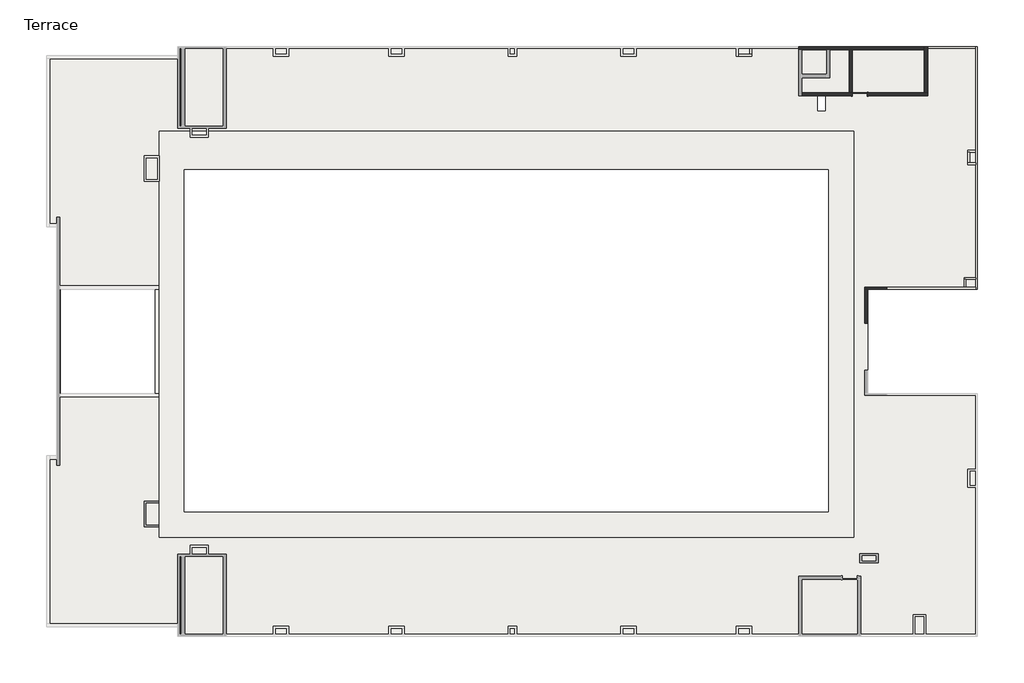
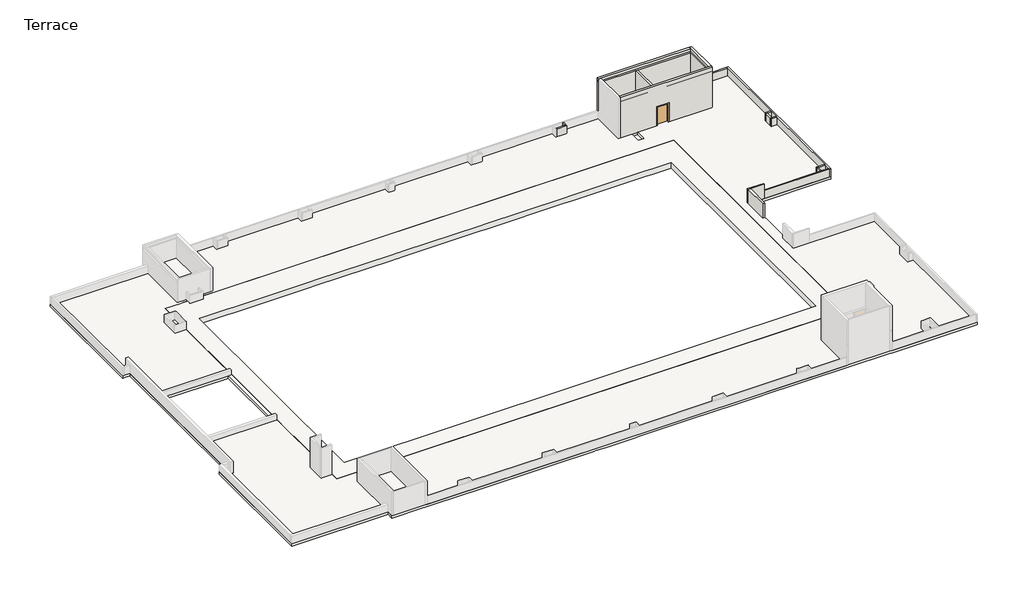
# One storey, part 3 of 3: 16 walls, 2 slabs, 1 door.
"""IFC4 building model written with IfcOpenShell, lengths in millimetres."""

from ifc_helpers import new_model, si_unit, frame, origin, place, context, project, spatial, polyline, outline, extrude, faceted_brep, transform, mapped, element, save
from components import m_single_flush_d_1200x2150_9af03719

model = new_model("IFC4")

# Units and contexts
model_context = context("Model", 3, world=origin())
ifc_project = project(units=[si_unit("LENGTHUNIT", "METRE", prefix="MILLI")], contexts=[model_context])

# Site, building, storey
site = spatial("IfcSite", under=ifc_project)
building = spatial("IfcBuilding", under=site)
storey = spatial("IfcBuildingStorey", under=building, Name="Terrace", Elevation=15000.0)

# Door
placement = place(None, origin())
m_single_flush_d_1200x2150_shape = m_single_flush_d_1200x2150_9af03719(model_context)
element("IfcDoor", 1, ObjectType="M_Single-Flush : D-1200x2150", at=placement, inside=storey, context=model_context, shape_type="MappedRepresentation", body=[
    mapped(m_single_flush_d_1200x2150_shape, transform((33422.4134101, 17450.8851347, 15000.0), x_axis=(-1.0, 0.0, 0.0), y_axis=(0.0, -1.0, 0.0), z_axis=(0.0, 0.0, 1.0))),
])

# Slabs
element("IfcSlab", 2, ObjectType="Composite 225mm", at=placement, inside=storey, context=model_context, shape_type="Brep", body=[
    faceted_brep([(-21051.0865899, 21235.3851347, 14725.0), (-20909.0865899, 21235.3851347, 14725.0), (-19737.5865899, 21235.3851347, 14725.0), (-18837.5865899, 21235.3851347, 14725.0), (-17322.5865899, 21235.3851347, 14725.0), (-16722.5865899, 21235.3851347, 14725.0), (-16462.5865899, 21235.3851347, 14725.0), (-13797.5865899, 21235.3851347, 14725.0), (-11477.5865899, 21235.3851347, 14725.0), (-8507.5865899, 21235.3851347, 14725.0), (-7907.5865899, 21235.3851347, 14725.0), (-4937.5865899, 21235.3851347, 14725.0), (-2617.5865899, 21235.3851347, 14725.0), (47.4134101, 21235.3851347, 14725.0), (422.4134101, 21235.3851347, 14725.0), (964.9134101, 21235.3851347, 14725.0), (1022.4134101, 21235.3851347, 14725.0), (1097.4134101, 21235.3851347, 14725.0), (1154.9134101, 21235.3851347, 14725.0), (1697.4134101, 21235.3851347, 14725.0), (2367.4134101, 21235.3851347, 14725.0), (5334.9134101, 21235.3851347, 14725.0), (5476.9134101, 21235.3851347, 14725.0), (5872.9134101, 21235.3851347, 14725.0), (6014.9134101, 21235.3851347, 14725.0), (10027.4134101, 21235.3851347, 14725.0), (10627.4134101, 21235.3851347, 14725.0), (13967.4134101, 21235.3851347, 14725.0), (16287.4134101, 21235.3851347, 14725.0), (19257.4134101, 21235.3851347, 14725.0), (19857.4134101, 21235.3851347, 14725.0), (22827.4134101, 21235.3851347, 14725.0), (25147.4134101, 21235.3851347, 14725.0), (27812.4134101, 21235.3851347, 14725.0), (28187.4134101, 21235.3851347, 14725.0), (28670.9134101, 21235.3851347, 14725.0), (28787.4134101, 21235.3851347, 14725.0), (33532.4134101, 21235.3851347, 14725.0), (33982.4134101, 21235.3851347, 14725.0), (38782.4134101, 21235.3851347, 14725.0), (39232.4134101, 21235.3851347, 14725.0), (42362.4134101, 21235.3851347, 14725.0), (42717.4134101, 21235.3851347, 14725.0), (42824.4134101, 21235.3851347, 14725.0), (42824.4134101, 20647.3851347, 14725.0), (42824.4134101, 11997.3851347, 14725.0), (42824.4134101, 11397.3851347, 14725.0), (42824.4134101, 2497.3851347, 14725.0), (42824.4134101, 1897.3851347, 14725.0), (42824.4134101, 1885.3851347, 14725.0), (42717.4134101, 1885.3851347, 14725.0), (34077.4134101, 1885.3851347, 14725.0), (34077.4134101, -842.6572845, 14725.0), (34077.4134101, -1099.6572845, 14725.0), (34077.4134101, -3475.6572845, 14725.0), (34077.4134101, -3732.6572845, 14725.0), (34077.4134101, -6457.6148653, 14725.0), (42717.4134101, -6457.6148653, 14725.0), (42824.4134101, -6457.6148653, 14725.0), (42824.4134101, -6472.6148653, 14725.0), (42824.4134101, -7072.6148653, 14725.0), (42824.4134101, -12922.6148653, 14725.0), (42824.4134101, -13522.6148653, 14725.0), (42824.4134101, -19272.6148653, 14725.0), (42824.4134101, -20072.6148653, 14725.0), (42824.4134101, -25222.6148653, 14725.0), (42824.4134101, -25822.6148653, 14725.0), (42824.4134101, -25834.6148653, 14725.0), (42717.4134101, -25834.6148653, 14725.0), (33504.4134101, -25834.6148653, 14725.0), (33247.4134101, -25834.6148653, 14725.0), (28799.4134101, -25834.6148653, 14725.0), (27812.4134101, -25834.6148653, 14725.0), (25147.4134101, -25834.6148653, 14725.0), (22827.4134101, -25834.6148653, 14725.0), (19857.4134101, -25834.6148653, 14725.0), (19257.4134101, -25834.6148653, 14725.0), (16287.4134101, -25834.6148653, 14725.0), (13967.4134101, -25834.6148653, 14725.0), (11302.4134101, -25834.6148653, 14725.0), (8982.4134101, -25834.6148653, 14725.0), (6014.9134101, -25834.6148653, 14725.0), (5334.9134101, -25834.6148653, 14725.0), (2367.4134101, -25834.6148653, 14725.0), (1082.4134101, -25834.6148653, 14725.0), (1034.4134101, -25834.6148653, 14725.0), (47.4134101, -25834.6148653, 14725.0), (-2617.5865899, -25834.6148653, 14725.0), (-4937.5865899, -25834.6148653, 14725.0), (-11477.5865899, -25834.6148653, 14725.0), (-13797.5865899, -25834.6148653, 14725.0), (-16462.5865899, -25834.6148653, 14725.0), (-18837.5865899, -25834.6148653, 14725.0), (-19737.5865899, -25834.6148653, 14725.0), (-20909.0865899, -25834.6148653, 14725.0), (-21051.0865899, -25834.6148653, 14725.0), (-21051.0865899, -25109.6148653, 14725.0), (-31549.5865899, -25109.6148653, 14725.0), (-31549.5865899, -24852.6148653, 14725.0), (-31549.5865899, -11437.6148653, 14725.0), (-31292.5865899, -11437.6148653, 14725.0), (-30749.5865899, -11437.6148653, 14725.0), (-30749.5865899, 6862.3851348, 14725.0), (-31292.5865899, 6862.3851348, 14725.0), (-31549.5865899, 6862.3851348, 14725.0), (-31549.5865899, 20277.3851347, 14725.0), (-31549.5865899, 20534.3851347, 14725.0), (-21051.0865899, 20534.3851347, 14725.0), (32950.4134101, 14475.3851347, 14725.0), (-17192.5865899, 14475.3851347, 14725.0), (-17449.5865899, 14475.3851347, 14725.0), (-18622.5865899, 14475.3851347, 14725.0), (-18764.5865899, 14475.3851347, 14725.0), (-19937.5865899, 14475.3851347, 14725.0), (-20079.5865899, 14475.3851347, 14725.0), (-20525.5865899, 14475.3851347, 14725.0), (-20782.5865899, 14475.3851347, 14725.0), (-22525.5865899, 14475.3851347, 14725.0), (-22525.5865899, 13797.3851347, 14725.0), (-22525.5865899, 13527.3851347, 14725.0), (-22525.5865899, 13447.3851347, 14725.0), (-22525.5865899, 13385.3851347, 14725.0), (-22525.5865899, 2142.3851348, 14725.0), (-22525.5865899, 1885.3851348, 14725.0), (-22525.5865899, -6460.6148653, 14725.0), (-22525.5865899, -6717.6148653, 14725.0), (-22525.5865899, -17960.6148653, 14725.0), (-20782.5865899, -17960.6148653, 14725.0), (-20525.5865899, -17960.6148653, 14725.0), (-17449.5865899, -17960.6148653, 14725.0), (30582.4134101, -17960.6148653, 14725.0), (30724.4134101, -17960.6148653, 14725.0), (32950.4134101, -17960.6148653, 14725.0), (32950.4134101, -13522.6148653, 14725.0), (32950.4134101, -12922.6148653, 14725.0), (32950.4134101, -7072.6148653, 14725.0), (32950.4134101, -6472.6148653, 14725.0), (32950.4134101, 1885.3851347, 14725.0), (32950.4134101, 1897.3851347, 14725.0), (32950.4134101, 2497.3851347, 14725.0), (32950.4134101, 11397.3851347, 14725.0), (32950.4134101, 11997.3851347, 14725.0), (32950.4134101, 13447.3851347, 14725.0), (32950.4134101, 13797.3851347, 14725.0), (-30399.5865899, -6460.6148653, 14725.0), (-22899.5865899, -6460.6148653, 14725.0), (-22899.5865899, 1885.3851348, 14725.0), (-30399.5865899, 1885.3851348, 14725.0), (30672.4134101, 17337.3851347, 14725.0), (30072.4134101, 17337.3851347, 14725.0), (30072.4134101, 17322.3851347, 14725.0), (30072.4134101, 16502.3851347, 14725.0), (30072.4134101, 16360.3851347, 14725.0), (30072.4134101, 16137.3851347, 14725.0), (30672.4134101, 16137.3851347, 14725.0), (30672.4134101, 16360.3851347, 14725.0), (30672.4134101, 17322.3851347, 14725.0), (42824.4134101, 21235.3851347, 15000.0), (42717.4134101, 21235.3851347, 15000.0), (42362.4134101, 21235.3851347, 15000.0), (39232.4134101, 21235.3851347, 15000.0), (38782.4134101, 21235.3851347, 15000.0), (33982.4134101, 21235.3851347, 15000.0), (33532.4134101, 21235.3851347, 15000.0), (28787.4134101, 21235.3851347, 15000.0), (28670.9134101, 21235.3851347, 15000.0), (28187.4134101, 21235.3851347, 15000.0), (27812.4134101, 21235.3851347, 15000.0), (25147.4134101, 21235.3851347, 15000.0), (22827.4134101, 21235.3851347, 15000.0), (19857.4134101, 21235.3851347, 15000.0), (19257.4134101, 21235.3851347, 15000.0), (16287.4134101, 21235.3851347, 15000.0), (13967.4134101, 21235.3851347, 15000.0), (10627.4134101, 21235.3851347, 15000.0), (10027.4134101, 21235.3851347, 15000.0), (6014.9134101, 21235.3851347, 15000.0), (5872.9134101, 21235.3851347, 15000.0), (5476.9134101, 21235.3851347, 15000.0), (5334.9134101, 21235.3851347, 15000.0), (2367.4134101, 21235.3851347, 15000.0), (1697.4134101, 21235.3851347, 15000.0), (1154.9134101, 21235.3851347, 15000.0), (1097.4134101, 21235.3851347, 15000.0), (1022.4134101, 21235.3851347, 15000.0), (964.9134101, 21235.3851347, 15000.0), (422.4134101, 21235.3851347, 15000.0), (47.4134101, 21235.3851347, 15000.0), (-2617.5865899, 21235.3851347, 15000.0), (-4937.5865899, 21235.3851347, 15000.0), (-7907.5865899, 21235.3851347, 15000.0), (-8507.5865899, 21235.3851347, 15000.0), (-11477.5865899, 21235.3851347, 15000.0), (-13797.5865899, 21235.3851347, 15000.0), (-16462.5865899, 21235.3851347, 15000.0), (-16722.5865899, 21235.3851347, 15000.0), (-17322.5865899, 21235.3851347, 15000.0), (-18837.5865899, 21235.3851347, 15000.0), (-19737.5865899, 21235.3851347, 15000.0), (-20909.0865899, 21235.3851347, 15000.0), (-21051.0865899, 21235.3851347, 15000.0), (-21051.0865899, 20534.3851347, 15000.0), (-31549.5865899, 20534.3851347, 15000.0), (-31549.5865899, 20277.3851347, 15000.0), (-31549.5865899, 6862.3851348, 15000.0), (-31292.5865899, 6862.3851348, 15000.0), (-30749.5865899, 6862.3851348, 15000.0), (-30749.5865899, -11437.6148653, 15000.0), (-31292.5865899, -11437.6148653, 15000.0), (-31549.5865899, -11437.6148653, 15000.0), (-31549.5865899, -24852.6148653, 15000.0), (-31549.5865899, -25109.6148653, 15000.0), (-21051.0865899, -25109.6148653, 15000.0), (-21051.0865899, -25834.6148653, 15000.0), (-20909.0865899, -25834.6148653, 15000.0), (-17449.5865899, -25834.6148653, 15000.0), (-17192.5865899, -25834.6148653, 15000.0), (19257.4134101, -25834.6148653, 15000.0), (19857.4134101, -25834.6148653, 15000.0), (28542.4134101, -25834.6148653, 15000.0), (28799.4134101, -25834.6148653, 15000.0), (33247.4134101, -25834.6148653, 15000.0), (33504.4134101, -25834.6148653, 15000.0), (42682.4134101, -25834.6148653, 15000.0), (42824.4134101, -25834.6148653, 15000.0), (42824.4134101, -25822.6148653, 15000.0), (42824.4134101, -25222.6148653, 15000.0), (42824.4134101, -20072.6148653, 15000.0), (42824.4134101, -19272.6148653, 15000.0), (42824.4134101, -13522.6148653, 15000.0), (42824.4134101, -12922.6148653, 15000.0), (42824.4134101, -7072.6148653, 15000.0), (42824.4134101, -6472.6148653, 15000.0), (42824.4134101, -6457.6148653, 15000.0), (42682.4134101, -6457.6148653, 15000.0), (35592.4134101, -6457.6148653, 15000.0), (34077.4134101, -6457.6148653, 15000.0), (34077.4134101, -4617.6148653, 15000.0), (34077.4134101, -3732.6572845, 15000.0), (34077.4134101, -3475.6572845, 15000.0), (34077.4134101, -1099.6572845, 15000.0), (34077.4134101, -842.6572845, 15000.0), (34077.4134101, 1885.3851347, 15000.0), (35592.4134101, 1885.3851347, 15000.0), (42682.4134101, 1885.3851347, 15000.0), (42824.4134101, 1885.3851347, 15000.0), (42824.4134101, 1897.3851347, 15000.0), (42824.4134101, 2497.3851347, 15000.0), (42824.4134101, 11397.3851347, 15000.0), (42824.4134101, 11997.3851347, 15000.0), (42824.4134101, 20647.3851347, 15000.0), (-22525.5865899, 14475.3851347, 15000.0), (-20782.5865899, 14475.3851347, 15000.0), (-20525.5865899, 14475.3851347, 15000.0), (-20079.5865899, 14475.3851347, 15000.0), (-19937.5865899, 14475.3851347, 15000.0), (-18764.5865899, 14475.3851347, 15000.0), (-18622.5865899, 14475.3851347, 15000.0), (-17449.5865899, 14475.3851347, 15000.0), (-17192.5865899, 14475.3851347, 15000.0), (32950.4134101, 14475.3851347, 15000.0), (32950.4134101, -17960.6148653, 15000.0), (-22525.5865899, -17960.6148653, 15000.0), (-22525.5865899, 10482.4013413, 15000.0), (-22525.5865899, 10624.4013413, 15000.0), (-22525.5865899, 12397.3851348, 15000.0), (-22525.5865899, 12539.3851348, 15000.0), (-22525.5865899, 13385.3851347, 15000.0), (-22525.5865899, 13527.3851347, 15000.0), (-22899.5865899, -6460.6148653, 15000.0), (-30399.5865899, -6460.6148653, 15000.0), (-30399.5865899, 1885.3851348, 15000.0), (-22899.5865899, 1885.3851348, 15000.0), (30072.4134101, 17337.3851347, 15000.0), (30672.4134101, 17337.3851347, 15000.0), (30672.4134101, 17322.3851347, 15000.0), (30672.4134101, 16360.3851347, 15000.0), (30672.4134101, 16137.3851347, 15000.0), (30072.4134101, 16137.3851347, 15000.0), (30072.4134101, 16360.3851347, 15000.0), (30072.4134101, 16502.3851347, 15000.0), (30072.4134101, 17322.3851347, 15000.0)], [[[0, 1, 2, 3, 4, 5, 6, 7, 8, 9, 10, 11, 12, 13, 14, 15, 16, 17, 18, 19, 20, 21, 22, 23, 24, 25, 26, 27, 28, 29, 30, 31, 32, 33, 34, 35, 36, 37, 38, 39, 40, 41, 42, 43, 44, 45, 46, 47, 48, 49, 50, 51, 52, 53, 54, 55, 56, 57, 58, 59, 60, 61, 62, 63, 64, 65, 66, 67, 68, 69, 70, 71, 72, 73, 74, 75, 76, 77, 78, 79, 80, 81, 82, 83, 84, 85, 86, 87, 88, 89, 90, 91, 92, 93, 94, 95, 96, 97, 98, 99, 100, 101, 102, 103, 104, 105, 106, 107], [108, 109, 110, 111, 112, 113, 114, 115, 116, 117, 118, 119, 120, 121, 122, 123, 124, 125, 126, 127, 128, 129, 130, 131, 132, 133, 134, 135, 136, 137, 138, 139, 140, 141, 142, 143], [144, 145, 146, 147], [148, 149, 150, 151, 152, 153, 154, 155, 156]], [[157, 158, 159, 160, 161, 162, 163, 164, 165, 166, 167, 168, 169, 170, 171, 172, 173, 174, 175, 176, 177, 178, 179, 180, 181, 182, 183, 184, 185, 186, 187, 188, 189, 190, 191, 192, 193, 194, 195, 196, 197, 198, 199, 200, 201, 202, 203, 204, 205, 206, 207, 208, 209, 210, 211, 212, 213, 214, 215, 216, 217, 218, 219, 220, 221, 222, 223, 224, 225, 226, 227, 228, 229, 230, 231, 232, 233, 234, 235, 236, 237, 238, 239, 240, 241, 242, 243, 244, 245, 246, 247, 248, 249, 250], [251, 252, 253, 254, 255, 256, 257, 258, 259, 260, 261, 262, 263, 264, 265, 266, 267, 268], [269, 270, 271, 272], [273, 274, 275, 276, 277, 278, 279, 280, 281]], [[43, 42, 41, 40, 39, 38, 37, 36, 35, 34, 33, 32, 31, 30, 29, 28, 27, 26, 25, 24, 23, 22, 21, 20, 19, 18, 17, 16, 15, 14, 13, 12, 11, 10, 9, 8, 7, 6, 5, 4, 3, 2, 1, 0, 200, 199, 198, 197, 196, 195, 194, 193, 192, 191, 190, 189, 188, 187, 186, 185, 184, 183, 182, 181, 180, 179, 178, 177, 176, 175, 174, 173, 172, 171, 170, 169, 168, 167, 166, 165, 164, 163, 162, 161, 160, 159, 158, 157]], [[49, 48, 47, 46, 45, 44, 43, 157, 250, 249, 248, 247, 246, 245]], [[51, 50, 49, 245, 244, 243, 242]], [[56, 55, 54, 53, 52, 51, 242, 241, 240, 239, 238, 237, 236]], [[58, 57, 56, 236, 235, 234, 233]], [[67, 66, 65, 64, 63, 62, 61, 60, 59, 58, 233, 232, 231, 230, 229, 228, 227, 226, 225, 224]], [[95, 94, 93, 92, 91, 90, 89, 88, 87, 86, 85, 84, 83, 82, 81, 80, 79, 78, 77, 76, 75, 74, 73, 72, 71, 70, 69, 68, 67, 224, 223, 222, 221, 220, 219, 218, 217, 216, 215, 214, 213]], [[96, 95, 213, 212]], [[97, 96, 212, 211]], [[99, 98, 97, 211, 210, 209]], [[101, 100, 99, 209, 208, 207]], [[102, 101, 207, 206]], [[104, 103, 102, 206, 205, 204]], [[106, 105, 104, 204, 203, 202]], [[107, 106, 202, 201]], [[0, 107, 201, 200]], [[117, 116, 115, 114, 113, 112, 111, 110, 109, 108, 260, 259, 258, 257, 256, 255, 254, 253, 252, 251]], [[126, 125, 124, 123, 122, 121, 120, 119, 118, 117, 251, 268, 267, 266, 265, 264, 263, 262]], [[132, 131, 130, 129, 128, 127, 126, 262, 261]], [[108, 143, 142, 141, 140, 139, 138, 137, 136, 135, 134, 133, 132, 261, 260]], [[145, 144, 270, 269]], [[146, 145, 269, 272]], [[147, 146, 272, 271]], [[144, 147, 271, 270]], [[148, 274, 273, 149]], [[149, 273, 281, 280, 279, 278, 153, 152, 151, 150]], [[153, 278, 277, 154]], [[274, 148, 156, 155, 154, 277, 276, 275]]]),
])
element("IfcSlab", 3, ObjectType="Composite 625mm", at=placement, inside=storey, context=model_context, shape_type="Brep", body=[
    faceted_brep([(32950.4134101, -17960.6148653, 14375.0), (32950.4134101, -13522.6148653, 14375.0), (32950.4134101, -12922.6148653, 14375.0), (32950.4134101, -7072.6148653, 14375.0), (32950.4134101, -6472.6148653, 14375.0), (32950.4134101, 1897.3851347, 14375.0), (32950.4134101, 2497.3851347, 14375.0), (32950.4134101, 11397.3851347, 14375.0), (32950.4134101, 11997.3851347, 14375.0), (32950.4134101, 14499.3851347, 14375.0), (32950.4134101, 14499.3851347, 14725.0), (32950.4134101, 14475.3851347, 14725.0), (32950.4134101, 14475.3851347, 15000.0), (32950.4134101, -17960.6148653, 15000.0), (32950.4134101, -17960.6148653, 14725.0), (-22525.5865899, -17960.6148653, 15000.0), (-22525.5865899, -17960.6148653, 14725.0), (-22525.5865899, -17960.6148653, 14375.0), (-22525.5865899, 14499.3851347, 14375.0), (-22525.5865899, 14475.3851347, 15000.0), (-22525.5865899, 14475.3851347, 14725.0), (-22525.5865899, 14499.3851347, 14725.0), (-20537.5865899, 11419.6101347, 15000.0), (-20537.5865899, 11419.6101347, 14375.0), (-17437.5865899, 11419.6101347, 14375.0), (-16837.5865899, 11419.6101347, 14375.0), (-8507.5865899, 11419.6101347, 14375.0), (-7907.5865899, 11419.6101347, 14375.0), (422.4134101, 11419.6101347, 14375.0), (1022.4134101, 11419.6101347, 14375.0), (1097.4134101, 11419.6101347, 14375.0), (1697.4134101, 11419.6101347, 14375.0), (10027.4134101, 11419.6101347, 14375.0), (10627.4134101, 11419.6101347, 14375.0), (19257.4134101, 11419.6101347, 14375.0), (19857.4134101, 11419.6101347, 14375.0), (28187.4134101, 11419.6101347, 14375.0), (28787.4134101, 11419.6101347, 14375.0), (30911.6134101, 11419.6101347, 14375.0), (30911.6134101, 11419.6101347, 15000.0), (28787.4134101, 11419.6101347, 15000.0), (28187.4134101, 11419.6101347, 15000.0), (19857.4134101, 11419.6101347, 15000.0), (19257.4134101, 11419.6101347, 15000.0), (10627.4134101, 11419.6101347, 15000.0), (10027.4134101, 11419.6101347, 15000.0), (1697.4134101, 11419.6101347, 15000.0), (1097.4134101, 11419.6101347, 15000.0), (1022.4134101, 11419.6101347, 15000.0), (422.4134101, 11419.6101347, 15000.0), (-7907.5865899, 11419.6101347, 15000.0), (-8507.5865899, 11419.6101347, 15000.0), (-16837.5865899, 11419.6101347, 15000.0), (-17437.5865899, 11419.6101347, 15000.0), (-20537.5865899, -15921.8148653, 15000.0), (-20537.5865899, -15921.8148653, 14375.0), (30911.6134101, -15921.8148653, 15000.0), (30911.6134101, -15921.8148653, 14375.0)], [[[0, 1, 2, 3, 4, 5, 6, 7, 8, 9, 10, 11, 12, 13, 14]], [[13, 15, 16, 17, 0, 14]], [[18, 17, 16, 15, 19, 20, 21]], [[9, 18, 21, 10]], [[22, 23, 24, 25, 26, 27, 28, 29, 30, 31, 32, 33, 34, 35, 36, 37, 38, 39, 40, 41, 42, 43, 44, 45, 46, 47, 48, 49, 50, 51, 52, 53]], [[23, 22, 54, 55]], [[55, 54, 56, 57]], [[57, 56, 39, 38]], [[15, 13, 12, 19], [54, 22, 53, 52, 51, 50, 49, 48, 47, 46, 45, 44, 43, 42, 41, 40, 39, 56]], [[17, 18, 9, 8, 7, 6, 5, 4, 3, 2, 1, 0], [23, 55, 57, 38, 37, 36, 35, 34, 33, 32, 31, 30, 29, 28, 27, 26, 25, 24]], [[20, 11, 10, 21]], [[11, 20, 19, 12]]]),
])

# Walls
element("IfcWall", 4, ObjectType="wall-115", at=placement, inside=storey, context=model_context, shape_type="SweptSolid", body=[
    extrude(outline(polyline([(42055.4134101, 11962.3851347), (42055.4134101, 12824.8851347), (42197.4134101, 12824.8851347), (42197.4134101, 11962.3851347), (42055.4134101, 11962.3851347)])), frame((0.0, 0.0, 15000.0), z_axis=(0.0, 0.0, 1.0), x_axis=(1.0, 0.0, 0.0)), (0.0, 0.0, 1.0), 900.0),
])
element("IfcWall", 5, ObjectType="wall-115", at=placement, inside=storey, context=model_context, shape_type="Brep", body=[
    faceted_brep([(42055.4134101, 11820.3851347, 15000.0), (42682.4134101, 11820.3851347, 15000.0), (42682.4134101, 11820.3851347, 15900.0), (42055.4134101, 11820.3851347, 15900.0), (42055.4134101, 11962.3851347, 15000.0), (42055.4134101, 11962.3851347, 15900.0), (42197.4134101, 11962.3851347, 15900.0), (42682.4134101, 11962.3851347, 15900.0), (42682.4134101, 11962.3851347, 15000.0), (42197.4134101, 11962.3851347, 15000.0)], [[[0, 1, 2, 3]], [[4, 5, 6, 7, 8, 9]], [[1, 0, 4, 9, 8]], [[3, 2, 7, 6, 5]], [[0, 3, 5, 4]], [[2, 1, 8, 7]]]),
])
element("IfcWall", 6, ObjectType="wall-115", at=placement, inside=storey, context=model_context, shape_type="Brep", body=[
    faceted_brep([(42682.4134101, 2804.3851347, 15000.0), (41750.4134101, 2804.3851347, 15000.0), (41750.4134101, 2804.3851347, 15900.0), (42682.4134101, 2804.3851347, 15900.0), (42682.4134101, 2662.3851347, 15000.0), (42682.4134101, 2662.3851347, 15900.0), (41892.4134101, 2662.3851347, 15900.0), (41750.4134101, 2662.3851347, 15900.0), (41750.4134101, 2662.3851347, 15000.0), (41892.4134101, 2662.3851347, 15000.0)], [[[0, 1, 2, 3]], [[4, 5, 6, 7, 8, 9]], [[1, 0, 4, 9, 8]], [[3, 2, 7, 6, 5]], [[2, 1, 8, 7]], [[0, 3, 5, 4]]]),
])
element("IfcWall", 7, ObjectType="wall-115", at=placement, inside=storey, context=model_context, shape_type="SweptSolid", body=[
    extrude(outline(polyline([(41750.4134101, 2027.3851347), (41750.4134101, 2662.3851347), (41892.4134101, 2662.3851347), (41892.4134101, 2027.3851347), (41750.4134101, 2027.3851347)])), frame((0.0, 0.0, 15000.0), z_axis=(0.0, 0.0, 1.0), x_axis=(1.0, 0.0, 0.0)), (0.0, 0.0, 1.0), 900.0),
])
element("IfcWall", 8, ObjectType="wall-115", at=placement, inside=storey, context=model_context, shape_type="Brep", body=[
    faceted_brep([(42824.4134101, 1885.3851347, 15000.0), (42824.4134101, 21235.3851347, 15000.0), (42824.4134101, 21262.3851347, 15000.0), (42824.4134101, 21262.3851347, 15900.0), (42824.4134101, 1885.3851347, 15900.0), (42682.4134101, 1885.3851347, 15000.0), (42682.4134101, 1885.3851347, 15900.0), (42682.4134101, 2027.3851347, 15900.0), (42682.4134101, 2662.3851347, 15900.0), (42682.4134101, 2804.3851347, 15900.0), (42682.4134101, 11820.3851347, 15900.0), (42682.4134101, 11962.3851347, 15900.0), (42682.4134101, 12824.8851347, 15900.0), (42682.4134101, 12966.8851347, 15900.0), (42682.4134101, 21120.3851347, 15900.0), (42682.4134101, 21262.3851347, 15900.0), (42682.4134101, 21262.3851347, 15000.0), (42682.4134101, 21120.3851347, 15000.0), (42682.4134101, 12966.8851347, 15000.0), (42682.4134101, 12824.8851347, 15000.0), (42682.4134101, 11962.3851347, 15000.0), (42682.4134101, 11820.3851347, 15000.0), (42682.4134101, 2804.3851347, 15000.0), (42682.4134101, 2662.3851347, 15000.0), (42682.4134101, 2027.3851347, 15000.0)], [[[0, 1, 2, 3, 4]], [[5, 6, 7, 8, 9, 10, 11, 12, 13, 14, 15, 16, 17, 18, 19, 20, 21, 22, 23, 24]], [[2, 1, 0, 5, 24, 23, 22, 21, 20, 19, 18, 17, 16]], [[4, 3, 15, 14, 13, 12, 11, 10, 9, 8, 7, 6]], [[0, 4, 6, 5]], [[3, 2, 16, 15]]]),
])
element("IfcWall", 9, ObjectType="wall-115", at=placement, inside=storey, context=model_context, shape_type="Brep", body=[
    faceted_brep([(42055.4134101, 12824.8851347, 15000.0), (42197.4134101, 12824.8851347, 15000.0), (42682.4134101, 12824.8851347, 15000.0), (42682.4134101, 12824.8851347, 15900.0), (42197.4134101, 12824.8851347, 15900.0), (42055.4134101, 12824.8851347, 15900.0), (42055.4134101, 12966.8851347, 15000.0), (42055.4134101, 12966.8851347, 15900.0), (42682.4134101, 12966.8851347, 15900.0), (42682.4134101, 12966.8851347, 15000.0)], [[[0, 1, 2, 3, 4, 5]], [[6, 7, 8, 9]], [[2, 1, 0, 6, 9]], [[5, 4, 3, 8, 7]], [[0, 5, 7, 6]], [[3, 2, 9, 8]]]),
])
element("IfcWall", 10, ObjectType="wall-115", at=placement, inside=storey, context=model_context, shape_type="Brep", body=[
    faceted_brep([(33820.4134101, 1885.3851347, 15000.0), (34077.4134101, 1885.3851347, 15000.0), (35592.4134101, 1885.3851347, 15000.0), (35592.4134101, 1885.3851347, 15900.0), (35592.4134101, 1885.3851347, 16650.0), (34077.4134101, 1885.3851347, 16650.0), (33820.4134101, 1885.3851347, 16650.0), (33820.4134101, 2027.3851347, 15000.0), (33820.4134101, 2027.3851347, 16650.0), (35592.4134101, 2027.3851347, 16650.0), (35592.4134101, 2027.3851347, 15900.0), (35592.4134101, 2027.3851347, 15000.0)], [[[0, 1, 2, 3, 4, 5, 6]], [[7, 8, 9, 10, 11]], [[2, 1, 0, 7, 11]], [[4, 3, 2, 11, 10, 9]], [[6, 5, 4, 9, 8]], [[0, 6, 8, 7]]]),
])
element("IfcWall", 11, ObjectType="wall-115", at=placement, inside=storey, context=model_context, shape_type="Brep", body=[
    faceted_brep([(23699.4134101, 20487.3851347, 15000.0), (24787.4134101, 20487.3851347, 15000.0), (24787.4134101, 20487.3851347, 15900.0), (23699.4134101, 20487.3851347, 15900.0), (23699.4134101, 20629.3851347, 15000.0), (23699.4134101, 20629.3851347, 15900.0), (24645.4134101, 20629.3851347, 15900.0), (24787.4134101, 20629.3851347, 15900.0), (24787.4134101, 20629.3851347, 15000.0), (24645.4134101, 20629.3851347, 15000.0)], [[[0, 1, 2, 3]], [[4, 5, 6, 7, 8, 9]], [[1, 0, 4, 9, 8]], [[3, 2, 7, 6, 5]], [[2, 1, 8, 7]], [[0, 3, 5, 4]]]),
])
element("IfcWall", 12, ObjectType="wall-115", at=placement, inside=storey, context=model_context, shape_type="SweptSolid", body=[
    extrude(outline(polyline([(24787.4134101, 21117.3851347), (24787.4134101, 20629.3851347), (24645.4134101, 20629.3851347), (24645.4134101, 21117.3851347), (24787.4134101, 21117.3851347)])), frame((0.0, 0.0, 15000.0), z_axis=(0.0, 0.0, 1.0), x_axis=(1.0, 0.0, 0.0)), (0.0, 0.0, 1.0), 900.0),
])
element("IfcWall", 13, ObjectType="wall-115", at=placement, inside=storey, context=model_context, shape_type="Brep", body=[
    faceted_brep([(38834.4134101, 21120.3851347, 15000.0), (42682.4134101, 21120.3851347, 15000.0), (42682.4134101, 21120.3851347, 15900.0), (38834.4134101, 21120.3851347, 15900.0), (38834.4134101, 21262.3851347, 15000.0), (38834.4134101, 21262.3851347, 15900.0), (42682.4134101, 21262.3851347, 15900.0), (42682.4134101, 21262.3851347, 15000.0), (38834.4134101, 21259.3851347, 15000.0)], [[[0, 1, 2, 3]], [[4, 5, 6, 7]], [[1, 0, 8, 4, 7]], [[3, 2, 6, 5]], [[0, 3, 5, 4, 8]], [[2, 1, 7, 6]]]),
])
element("IfcWall", 14, ObjectType="wall-115", at=placement, inside=storey, context=model_context, shape_type="Brep", body=[
    faceted_brep([(35592.4134101, 1885.3851347, 15000.0), (42682.4134101, 1885.3851347, 15000.0), (42682.4134101, 1885.3851347, 15900.0), (35592.4134101, 1885.3851347, 15900.0), (35592.4134101, 2027.3851347, 15000.0), (35592.4134101, 2027.3851347, 15900.0), (41750.4134101, 2027.3851347, 15900.0), (41892.4134101, 2027.3851347, 15900.0), (42682.4134101, 2027.3851347, 15900.0), (42682.4134101, 2027.3851347, 15000.0), (41892.4134101, 2027.3851347, 15000.0), (41750.4134101, 2027.3851347, 15000.0)], [[[0, 1, 2, 3]], [[4, 5, 6, 7, 8, 9, 10, 11]], [[1, 0, 4, 11, 10, 9]], [[3, 2, 8, 7, 6, 5]], [[0, 3, 5, 4]], [[2, 1, 9, 8]]]),
])
element("IfcWall", 15, ObjectType="wall-230", at=placement, inside=storey, context=model_context, shape_type="Brep", body=[
    faceted_brep([(28799.4134101, 17579.3851347, 19650.0), (38577.4134101, 17579.3851347, 19650.0), (38834.4134101, 17579.3851347, 19650.0), (38834.4134101, 17579.3851347, 15000.0), (38577.4134101, 17579.3851347, 15000.0), (34022.4134101, 17579.3851347, 15000.0), (34022.4134101, 17579.3851347, 17150.0), (32822.4134101, 17579.3851347, 17150.0), (32822.4134101, 17579.3851347, 15000.0), (32577.4134101, 17579.3851347, 15000.0), (28799.4134101, 17579.3851347, 15000.0), (28799.4134101, 17579.3851347, 19200.0), (32577.4134101, 17579.3851347, 19200.0), (32834.4134101, 17579.3851347, 19200.0), (38577.4134101, 17579.3851347, 19200.0), (38822.4134101, 17579.3851347, 19200.0), (38822.4134101, 17579.3851347, 19350.0), (38577.4134101, 17579.3851347, 19350.0), (28799.4134101, 17579.3851347, 19350.0), (38834.4134101, 17322.3851347, 19650.0), (28799.4134101, 17322.3851347, 19650.0), (28799.4134101, 17322.3851347, 15000.0), (32822.4134101, 17322.3851347, 15000.0), (32822.4134101, 17322.3851347, 17150.0), (34022.4134101, 17322.3851347, 17150.0), (34022.4134101, 17322.3851347, 15000.0), (38834.4134101, 17322.3851347, 15000.0), (28799.4134101, 17337.3851347, 19350.0), (28799.4134101, 17337.3851347, 19200.0), (38822.4134101, 17337.3851347, 19200.0), (38822.4134101, 17337.3851347, 19350.0)], [[[0, 1, 2, 3, 4, 5, 6, 7, 8, 9, 10, 11, 12, 13, 14, 15, 16, 17, 18]], [[19, 20, 21, 22, 23, 24, 25, 26]], [[3, 26, 25, 5, 4]], [[21, 10, 9, 8, 22]], [[2, 1, 0, 20, 19]], [[3, 2, 19, 26]], [[10, 21, 20, 0, 18, 27, 28, 11]], [[7, 23, 22, 8]], [[23, 7, 6, 24]], [[24, 6, 5, 25]], [[28, 29, 15, 14, 13, 12, 11]], [[16, 30, 27, 18, 17]], [[29, 30, 16, 15]], [[30, 29, 28, 27]]]),
])
element("IfcWall", 16, ObjectType="wall-230", at=placement, inside=storey, context=model_context, shape_type="Brep", body=[
    faceted_brep([(38834.4134101, 17579.3851347, 15000.0), (38834.4134101, 21120.3851347, 15000.0), (38834.4134101, 21259.3851347, 15000.0), (38834.4134101, 21259.3851347, 19650.0), (38834.4134101, 17579.3851347, 19650.0), (38577.4134101, 21259.3851347, 15000.0), (38577.4134101, 21002.3851347, 15000.0), (38577.4134101, 17579.3851347, 15000.0), (38577.4134101, 17579.3851347, 19200.0), (38577.4134101, 21002.3851347, 19200.0), (38577.4134101, 21247.3851347, 19200.0), (38577.4134101, 21247.3851347, 19350.0), (38577.4134101, 21002.3851347, 19350.0), (38577.4134101, 17579.3851347, 19350.0), (38577.4134101, 17579.3851347, 19650.0), (38577.4134101, 21002.3851347, 19650.0), (38577.4134101, 21259.3851347, 19650.0), (38822.4134101, 17579.3851347, 19350.0), (38822.4134101, 17579.3851347, 19200.0), (38822.4134101, 21247.3851347, 19200.0), (38822.4134101, 21247.3851347, 19350.0)], [[[0, 1, 2, 3, 4]], [[5, 6, 7, 8, 9, 10, 11, 12, 13, 14, 15, 16]], [[2, 1, 0, 7, 6, 5]], [[4, 3, 16, 15, 14]], [[2, 5, 16, 3]], [[0, 4, 14, 13, 17, 18, 8, 7]], [[19, 10, 9, 8, 18]], [[20, 17, 13, 12, 11]], [[20, 19, 18, 17]], [[19, 20, 11, 10]]]),
])
element("IfcWall", 17, ObjectType="wall-230", at=placement, inside=storey, context=model_context, shape_type="Brep", body=[
    faceted_brep([(32834.4134101, 17579.3851347, 15000.0), (32834.4134101, 21002.3851347, 15000.0), (32834.4134101, 21002.3851347, 19200.0), (32834.4134101, 17579.3851347, 19200.0), (32577.4134101, 21002.3851347, 15000.0), (32577.4134101, 17579.3851347, 15000.0), (32577.4134101, 17579.3851347, 19200.0), (32577.4134101, 21002.3851347, 19200.0), (32822.4134101, 17579.3851347, 15000.0)], [[[0, 1, 2, 3]], [[4, 5, 6, 7]], [[1, 0, 8, 5, 4]], [[5, 8, 0, 3, 6]], [[1, 4, 7, 2]], [[3, 2, 7, 6]]]),
])
element("IfcWall", 18, ObjectType="wall-230", at=placement, inside=storey, context=model_context, shape_type="Brep", body=[
    faceted_brep([(38577.4134101, 21259.3851347, 15000.0), (28670.9134101, 21259.3851347, 15000.0), (28670.9134101, 21259.3851347, 15900.0), (28542.4134101, 21259.3851347, 15900.0), (28542.4134101, 21259.3851347, 19650.0), (38577.4134101, 21259.3851347, 19650.0), (28670.9134101, 21002.3851347, 15000.0), (28799.4134101, 21002.3851347, 15000.0), (30775.4134101, 21002.3851347, 15000.0), (31032.4134101, 21002.3851347, 15000.0), (32577.4134101, 21002.3851347, 15000.0), (32834.4134101, 21002.3851347, 15000.0), (38577.4134101, 21002.3851347, 15000.0), (38577.4134101, 21002.3851347, 19200.0), (32834.4134101, 21002.3851347, 19200.0), (32577.4134101, 21002.3851347, 19200.0), (28799.4134101, 21002.3851347, 19200.0), (28557.4134101, 21002.3851347, 19200.0), (28557.4134101, 21002.3851347, 19350.0), (28799.4134101, 21002.3851347, 19350.0), (38577.4134101, 21002.3851347, 19350.0), (38577.4134101, 21002.3851347, 19650.0), (28799.4134101, 21002.3851347, 19650.0), (28542.4134101, 21002.3851347, 19650.0), (28542.4134101, 21002.3851347, 15900.0), (28670.9134101, 21002.3851347, 15900.0), (28670.9134101, 21117.3851347, 15000.0), (28670.9134101, 21117.3851347, 15900.0), (28542.4134101, 21117.3851347, 15900.0), (38577.4134101, 21247.3851347, 19350.0), (38577.4134101, 21247.3851347, 19200.0), (28557.4134101, 21247.3851347, 19200.0), (28557.4134101, 21247.3851347, 19350.0)], [[[0, 1, 2, 3, 4, 5]], [[6, 7, 8, 9, 10, 11, 12, 13, 14, 15, 16, 17, 18, 19, 20, 21, 22, 23, 24, 25]], [[1, 0, 12, 11, 10, 9, 8, 7, 6, 26]], [[5, 4, 23, 22, 21]], [[1, 26, 6, 25, 27, 2]], [[3, 2, 27, 25, 24, 28]], [[4, 3, 28, 24, 23]], [[12, 0, 5, 21, 20, 29, 30, 13]], [[30, 31, 17, 16, 15, 14, 13]], [[18, 32, 29, 20, 19]], [[31, 32, 18, 17]], [[32, 31, 30, 29]]]),
])
element("IfcWall", 19, ObjectType="wall-230", at=placement, inside=storey, context=model_context, shape_type="SweptSolid", body=[
    extrude(outline(polyline([(34077.4134101, 1885.3851347), (34077.4134101, -842.6572845), (33820.4134101, -842.6572845), (33820.4134101, 1885.3851347), (34077.4134101, 1885.3851347)])), frame((0.0, 0.0, 15000.0), z_axis=(0.0, 0.0, 1.0), x_axis=(1.0, 0.0, 0.0)), (0.0, 0.0, 1.0), 1650.0),
])

save(model, "model.ifc")
